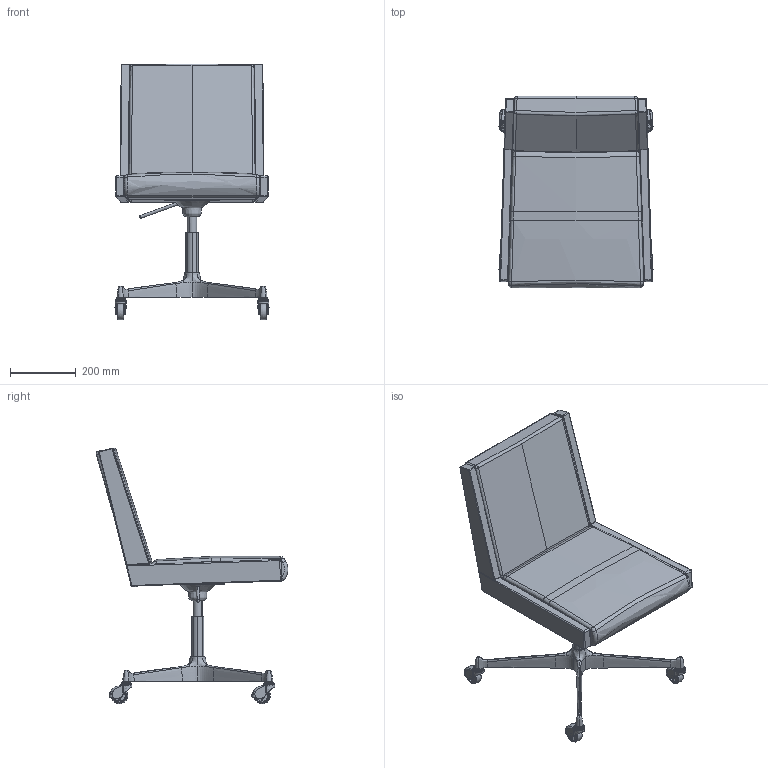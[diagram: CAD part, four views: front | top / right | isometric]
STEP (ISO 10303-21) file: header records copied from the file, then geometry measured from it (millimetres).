
FILE_DESCRIPTION(/* description */ (''),/* implementation_level */ '2;1');
FILE_NAME(/* name */ 'KINOSH~1',/* time_stamp */ '2021-08-03T16:02:20+09:00',/* author */ (''),/* organization */ (''),/* preprocessor_version */ 'ST-DEVELOPER v16.5',/* originating_system */ '',/* authorisation */ '');
FILE_SCHEMA (('AUTOMOTIVE_DESIGN'));
Length unit declared in the file: millimetre
Products named in the file (1): Document
Bounding box: 470 x 584.98 x 780.32 mm (x, y, z)
Volume: 16383054.2 mm3; surface area: 1476614.5 mm2
Topology: 23 solids, 25 shells, 1097 faces, 2621 edges, 1528 vertices
Faces by surface type: bspline 881, plane 216
Entity records: 114969 total; most frequent: CARTESIAN_POINT 100083, ORIENTED_EDGE 5118, EDGE_CURVE 2577, VERTEX_POINT 1528, B_SPLINE_CURVE_WITH_KNOTS 1199, EDGE_LOOP 1119, ADVANCED_FACE 1097, FACE_OUTER_BOUND 1097
